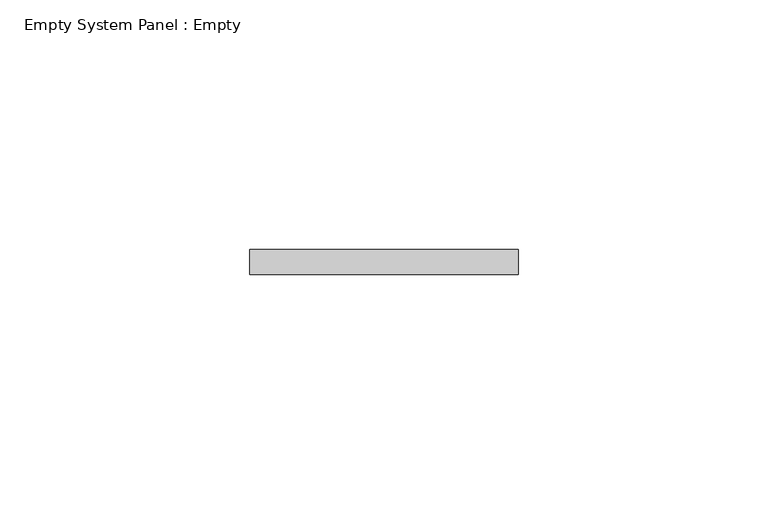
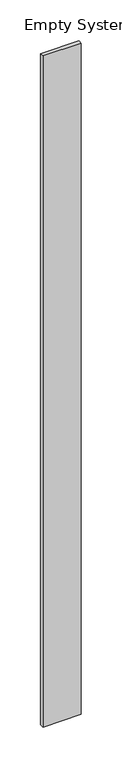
"""IFC4 building model written with IfcOpenShell, lengths in millimetres: plate geometry, Empty System Panel : Empty."""

from ifc_helpers import new_model, si_unit, origin, origin_with_axes, place, context, project, spatial, polyline, outline, extrude, source, transform, mapped, element, save


def empty_system_panel_empty_5dcf6e88(model_context):
    return source(origin(), model_context, "Body", "SweptSolid", [
        extrude(outline(polyline([(26.8621196, 97.5), (-26.8621196, 97.5), (-26.8621196, 102.5), (26.8621196, 102.5), (26.8621196, 97.5)])), origin_with_axes(), (0.0, 0.0, 1.0), 1000.0),
    ])


if __name__ == "__main__":
    model = new_model("IFC4")
    model_context = context("Model", 3, world=origin())
    ifc_project = project(units=[si_unit("LENGTHUNIT", "METRE", prefix="MILLI")], contexts=[model_context])
    site = spatial("IfcSite", under=ifc_project)
    building = spatial("IfcBuilding", under=site)
    placement = place(None, origin())
    empty_system_panel_empty_shape = empty_system_panel_empty_5dcf6e88(model_context)
    element("IfcPlate", 1, ObjectType="Empty System Panel : Empty", at=placement, inside=building, context=model_context, shape_type="MappedRepresentation", body=[
        mapped(empty_system_panel_empty_shape, transform((0.0, 0.0, 0.0), x_axis=(1.0, 0.0, 0.0), y_axis=(0.0, 1.0, 0.0), z_axis=(0.0, 0.0, 1.0))),
    ])
    save(model, "model.ifc")
